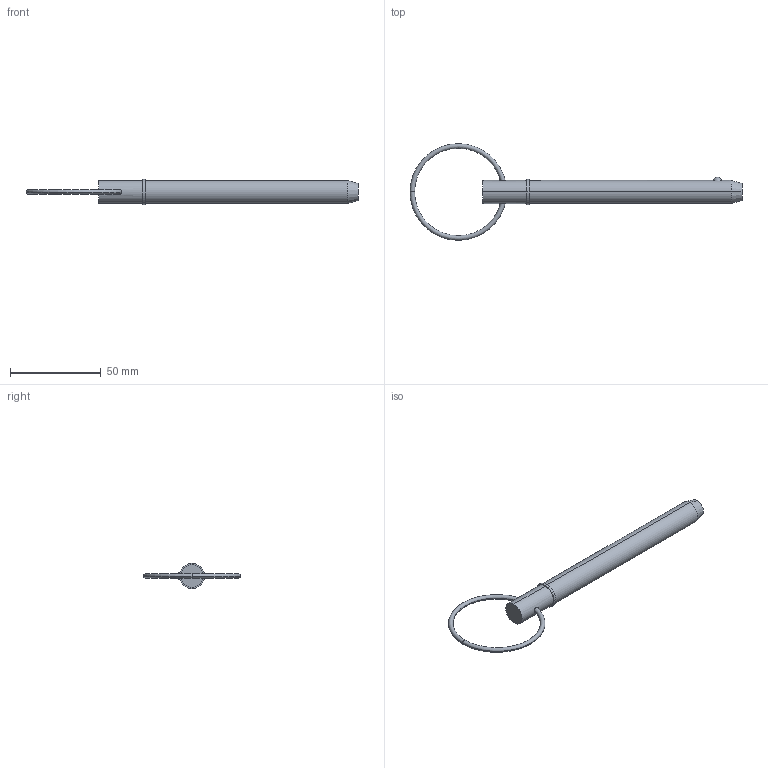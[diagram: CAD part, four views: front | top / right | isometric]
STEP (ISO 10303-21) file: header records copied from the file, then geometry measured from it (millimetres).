
FILE_DESCRIPTION (( 'STEP AP203' ), '1' );
FILE_NAME ('33014.W5040.step', '2024-11-04T08:30:30', ( '' ), ( '' ), 'SwSTEP 2.0', 'SolidWorks 2019', '' );
FILE_SCHEMA (( 'CONFIG_CONTROL_DESIGN' ));
Length unit declared in the file: millimetre
Products named in the file (3): 33014.W5040; Part2_33014.W5040; Part1_33014.W5040
Assembly tree (2 placements, depth 2):
  33014.W5040
    Part1_33014.W5040
    Part2_33014.W5040
Bounding box: 183.23 x 53.34 x 13.97 mm (x, y, z)
Volume: 18727.4 mm3; surface area: 7342.1 mm2
Topology: 2 solids, 2 shells, 22 faces, 43 edges, 26 vertices
Faces by surface type: torus 8, cylinder 6, plane 4, sphere 2, cone 2
Entity records: 1039 total; most frequent: CARTESIAN_POINT 262, DIRECTION 120, ORIENTED_EDGE 86, AXIS2_PLACEMENT_3D 56, EDGE_CURVE 43, CIRCLE 29, EDGE_LOOP 27, PERSON_AND_ORGANIZATION 26
